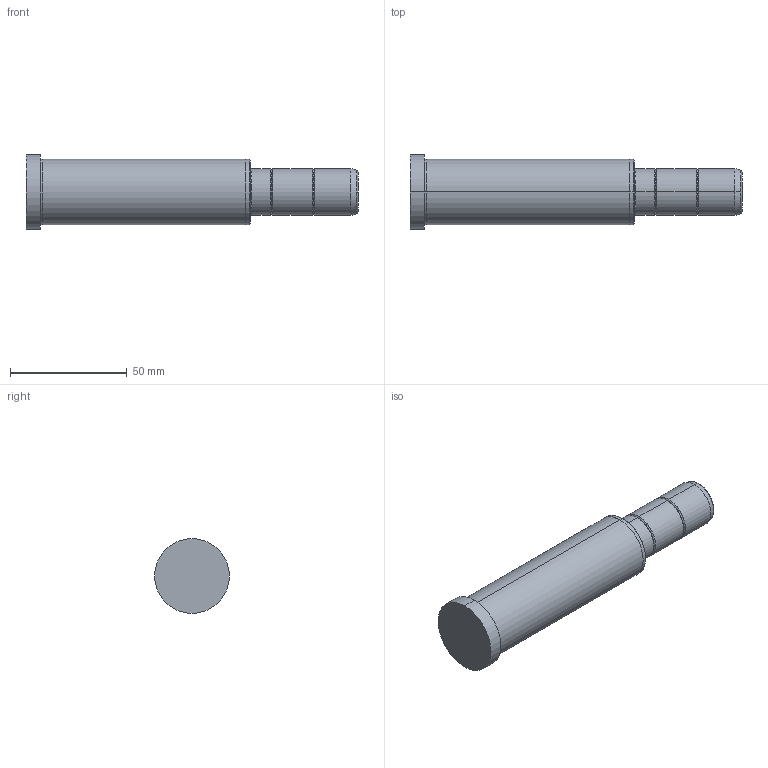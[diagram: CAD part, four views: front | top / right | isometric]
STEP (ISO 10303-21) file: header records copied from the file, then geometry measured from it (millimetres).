
FILE_DESCRIPTION (( 'STEP AP214' ), '1' );
FILE_NAME ('D02_20x96x46.step', '2011-12-25T20:06:16', ( 'Dell' ), ( '' ), 'SwSTEP 2.0', 'SolidWorks 2010', '' );
FILE_SCHEMA (( 'AUTOMOTIVE_DESIGN' ));
Length unit declared in the file: millimetre
Products named in the file (1): D02_20x96x46
Bounding box: 142 x 32 x 32 mm (x, y, z)
Volume: 74637.1 mm3; surface area: 12983.2 mm2
Topology: 1 solids, 1 shells, 36 faces, 82 edges, 52 vertices
Faces by surface type: cylinder 14, bspline 12, plane 6, cone 4
Entity records: 1212 total; most frequent: CARTESIAN_POINT 387, DIRECTION 172, ORIENTED_EDGE 164, EDGE_CURVE 82, AXIS2_PLACEMENT_3D 77, CIRCLE 52, VERTEX_POINT 52, EDGE_LOOP 40
